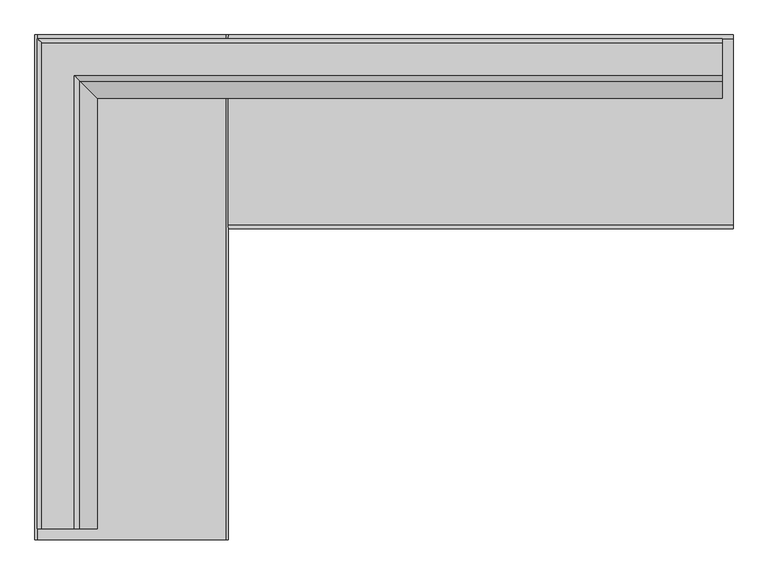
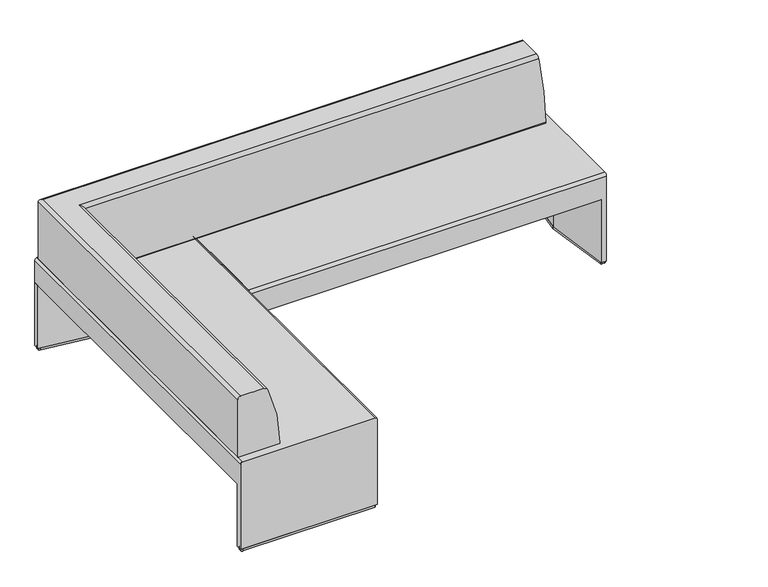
"""IFC4 building model written with IfcOpenShell, lengths in millimetres: furniture geometry, Coalesse_AM_Seating_Bench_Together_LeftCorner : 1.5in Back Offset - 69.75D x 96.5W."""

from ifc_helpers import new_model, si_unit, point, frame, frame_2d, origin, origin_with_axes, place, context, project, spatial, polyline, circle_curve, ellipse_curve, trimmed, segment, composite_curve, outline, extrude, source, transform, mapped, element, save
from ifc_brep_helpers import plane_surface, cylinder_surface, advanced_brep


def furniture_42e957c1(model_context):
    return source(origin(), model_context, "Body", "SolidModel", [
        extrude(outline(composite_curve([segment(polyline([(1701.7260341, 342.7173042), (1745.4494541, 668.3404046)]), True, "CONTINUOUS"), segment(trimmed(circle_curve(frame_2d((1752.4178665, 667.4047129)), 7.0309522), [point((1745.4494541, 668.3404046))], [point((1752.4121236, 674.4356628))], False, "CARTESIAN"), True, "CONTINUOUS"), segment(polyline([(1752.4121236, 674.4356628), (1764.935141, 674.4458915)]), True, "CONTINUOUS"), segment(trimmed(circle_curve(frame_2d((1764.9403277, 668.0958937)), 6.35), [point((1764.935141, 674.4458915))], [point((1771.2903256, 668.1010803))], False, "CARTESIAN"), True, "CONTINUOUS"), segment(polyline([(1771.2903256, 668.1010803), (1771.8258418, 12.4700002)]), True, "CONTINUOUS"), segment(trimmed(circle_curve(frame_2d((1765.4758439, 12.4648135)), 6.35), [point((1771.8258418, 12.4700002))], [point((1765.4810305, 6.1148157))], False, "CARTESIAN"), True, "CONTINUOUS"), segment(polyline([(1765.4810305, 6.1148157), (1753.0237657, 6.1046406)]), True, "CONTINUOUS"), segment(trimmed(circle_curve(frame_2d((1753.0185791, 12.4546385)), 6.35), [point((1753.0237657, 6.1046406))], [point((1746.7264214, 11.5995062))], False, "CARTESIAN"), True, "CONTINUOUS"), segment(polyline([(1746.7264214, 11.5995062), (1701.7260341, 342.7173042)]), True, "CONTINUOUS")], self_intersect=False)), origin_with_axes(), (0.0, 0.0, 1.0), 12.7976677),
        extrude(outline(composite_curve([segment(polyline([(-342.242834, 610.6565573), (-667.8301127, 654.6459299)]), True, "CONTINUOUS"), segment(trimmed(circle_curve(frame_2d((-666.8887296, 661.6135757)), 7.0309522), [point((-667.8301127, 654.6459299))], [point((-673.9196818, 661.6135757))], False, "CARTESIAN"), True, "CONTINUOUS"), segment(polyline([(-673.9196818, 661.6135757), (-673.9196818, 674.1365973)]), True, "CONTINUOUS"), segment(trimmed(circle_curve(frame_2d((-667.5696818, 674.1365973)), 6.35), [point((-673.9196818, 674.1365973))], [point((-667.5696818, 680.4865973))], False, "CARTESIAN"), True, "CONTINUOUS"), segment(polyline([(-667.5696818, 680.4865973), (-11.938383, 680.4865973)]), True, "CONTINUOUS"), segment(trimmed(circle_curve(frame_2d((-11.938383, 674.1365973)), 6.35), [point((-11.938383, 680.4865973))], [point((-5.588383, 674.1365973))], False, "CARTESIAN"), True, "CONTINUOUS"), segment(polyline([(-5.588383, 674.1365973), (-5.588383, 661.6793283)]), True, "CONTINUOUS"), segment(trimmed(circle_curve(frame_2d((-11.938383, 661.6793283)), 6.35), [point((-5.588383, 661.6793283))], [point((-11.0883904, 655.3864742))], False, "CARTESIAN"), True, "CONTINUOUS"), segment(polyline([(-11.0883904, 655.3864742), (-342.242834, 610.6565573)]), True, "CONTINUOUS")], self_intersect=False)), origin_with_axes(), (0.0, 0.0, 1.0), 12.7976677),
        extrude(outline(composite_curve([segment(polyline([(-342.242834, -1020.6704812), (-11.0883904, -1065.4003981)]), True, "CONTINUOUS"), segment(trimmed(circle_curve(frame_2d((-11.938383, -1071.6932522)), 6.35), [point((-11.0883904, -1065.4003981))], [point((-5.588383, -1071.6932522))], False, "CARTESIAN"), True, "CONTINUOUS"), segment(polyline([(-5.588383, -1071.6932522), (-5.588383, -1084.1505212)]), True, "CONTINUOUS"), segment(trimmed(circle_curve(frame_2d((-11.938383, -1084.1505212)), 6.35), [point((-5.588383, -1084.1505212))], [point((-11.938383, -1090.5005212))], False, "CARTESIAN"), True, "CONTINUOUS"), segment(polyline([(-11.938383, -1090.5005212), (-667.5696818, -1090.5005212)]), True, "CONTINUOUS"), segment(trimmed(circle_curve(frame_2d((-667.5696818, -1084.1505212)), 6.35), [point((-667.5696818, -1090.5005212))], [point((-673.9196818, -1084.1505212))], False, "CARTESIAN"), True, "CONTINUOUS"), segment(polyline([(-673.9196818, -1084.1505212), (-673.9196818, -1071.6274996)]), True, "CONTINUOUS"), segment(trimmed(circle_curve(frame_2d((-666.8887296, -1071.6274996)), 7.0309522), [point((-673.9196818, -1071.6274996))], [point((-667.8301127, -1064.6598538))], False, "CARTESIAN"), True, "CONTINUOUS"), segment(polyline([(-667.8301127, -1064.6598538), (-342.242834, -1020.6704812)]), True, "CONTINUOUS")], self_intersect=False)), origin_with_axes(), (0.0, 0.0, 1.0), 12.7976677),
        advanced_brep(
        [(1771.7783223, 12.7, 471.2287949), (1771.7783223, 0.0, 458.5287949), (1771.7783223, 0.0, 12.7976677), (1771.7783223, 680.4865973, 12.7976677), (1771.7783223, 680.4865973, 458.5287949), (1771.7783223, 667.7865973, 471.2287949), (0.0, 12.7, 471.2287949), (0.0, 667.7865973, 471.2287949), (0.0, 680.4865973, 458.5287949), (0.0, 680.4865973, 343.3718099), (0.0, 0.0, 343.3718099), (0.0, 0.0, 458.5287949), (1745.6026241, 0.0, 343.3718099), (1745.6015424, 0.0, 12.7976677), (1745.9085944, 680.4865973, 343.3718099), (1701.2700419, 337.8527218, 343.3718099), (1745.9096556, 680.4865973, 12.7976677), (1701.2700419, 337.8527218, 12.7976677)],
        [
            (0, 1, circle_curve(frame((1771.7783223, 12.7, 458.5287949), z_axis=(1.0, 0.0, 0.0), x_axis=(0.0, -1.0, 0.0)), 12.7)),
            (1, 2),
            (2, 3),
            (3, 4),
            (4, 5, circle_curve(frame((1771.7783223, 667.7865973, 458.5287949), z_axis=(1.0, 0.0, 0.0), x_axis=(0.0, -1.0, 0.0)), 12.7)),
            (5, 0),
            (6, 7),
            (7, 8, circle_curve(frame((0.0, 667.7865973, 458.5287949), z_axis=(-1.0, 0.0, 0.0), x_axis=(0.0, -1.0, 0.0)), 12.7)),
            (8, 9),
            (9, 10),
            (10, 11),
            (11, 6, circle_curve(frame((0.0, 12.7, 458.5287949), z_axis=(-1.0, 0.0, 0.0), x_axis=(0.0, -1.0, 0.0)), 12.7)),
            (0, 6),
            (11, 1),
            (10, 12),
            (12, 13),
            (13, 2),
            (9, 14),
            (14, 15),
            (15, 12),
            (3, 16),
            (16, 14),
            (8, 4),
            (7, 5),
            (17, 16),
            (13, 17),
            (15, 17),
        ],
        [
            plane_surface(frame((1771.7783223, 0.0, 458.5287949), z_axis=(1.0, 0.0, 0.0), x_axis=(0.0, 0.0, -1.0))),
            plane_surface(frame((0.0, 0.0, 458.5287949), z_axis=(-1.0, 0.0, 0.0), x_axis=(0.0, 0.0, 1.0))),
            cylinder_surface(frame((0.0, 12.7, 458.5287949), z_axis=(1.0, 0.0, 0.0), x_axis=(0.0, -1.0, 0.0)), 12.7),
            plane_surface(frame((1771.7783223, 0.0, 458.5287949), z_axis=(0.0, -1.0, 0.0), x_axis=(-1.0, 0.0, 0.0))),
            plane_surface(frame((1771.7783223, 0.0, 343.3718099), z_axis=(0.0, 0.0, -1.0), x_axis=(-1.0, 0.0, 0.0))),
            plane_surface(frame((1771.7783223, 680.4865973, 343.3718099), z_axis=(0.0, 1.0, 0.0), x_axis=(-1.0, 0.0, 0.0))),
            cylinder_surface(frame((0.0, 667.7865973, 458.5287949), z_axis=(1.0, 0.0, 0.0), x_axis=(0.0, -1.0, 0.0)), 12.7),
            plane_surface(frame((1771.7783223, 667.7865973, 471.2287949), z_axis=(0.0, 0.0, 1.0), x_axis=(-1.0, 0.0, 0.0))),
            plane_surface(frame((1701.2700419, 337.8527218, 12.7976677), z_axis=(0.0, 0.0, -1.0), x_axis=(-0.13010336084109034, 0.9915004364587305, 0.0))),
            plane_surface(frame((1701.2700419, 337.8527218, 343.3718099), z_axis=(-0.9915004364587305, -0.13010336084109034, 0.0), x_axis=(0.0, 0.0, -1.0))),
            plane_surface(frame((1745.9096556, 680.4947435, 343.3718099), z_axis=(-0.9916200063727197, 0.1291888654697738, 0.0), x_axis=(0.0, 0.0, -1.0))),
        ],
        [
            (0, [[1, 2, 3, 4, 5, 6]]),
            (1, [[7, 8, 9, 10, 11, 12]]),
            (2, [[-1, 13, -12, 14]]),
            (3, [[-2, -14, -11, 15, 16, 17]]),
            (4, [[-10, 18, 19, 20, -15]]),
            (5, [[-4, 21, 22, -18, -9, 23]]),
            (6, [[-5, -23, -8, 24]]),
            (7, [[-6, -24, -7, -13]]),
            (8, [[25, -21, -3, -17, 26]]),
            (9, [[-26, -16, -20, 27]]),
            (10, [[-25, -27, -19, -22]]),
        ],
    ),
        advanced_brep(
        [(0.0, -1091.3836068, 462.8584293), (-8.3703656, -1091.3836068, 471.2287949), (-669.1616777, -1091.3836068, 471.2287949), (-679.3216777, -1091.3836068, 461.0687949), (-679.3216777, -1091.3836068, 12.7976677), (0.0, -1091.3836068, 12.7976677), (0.0, 680.2663932, 343.3718099), (-679.3216777, 680.2663932, 343.3718099), (-679.3216777, 680.2663932, 461.0687949), (-669.1616777, 680.2663932, 471.2287949), (-8.3703656, 680.2663932, 471.2287949), (0.0, 680.2663932, 462.8584293), (0.0, -1065.3918934, 12.7976677), (0.0, -1065.3918934, 343.3718099), (-679.3216777, -1065.3918934, 343.3718099), (-679.3216777, -1065.3918934, 12.7976677), (-337.6103648, -1020.9829621, 343.3718099), (-337.6103648, -1020.9829621, 12.7976677)],
        [
            (0, 1, circle_curve(frame((-8.3703656, -1091.3836068, 462.8584293), z_axis=(0.0, -1.0, 0.0), x_axis=(1.0, 0.0, 0.0)), 8.3703656)),
            (1, 2),
            (2, 3, circle_curve(frame((-669.1616777, -1091.3836068, 461.0687949), z_axis=(0.0, -1.0, 0.0), x_axis=(1.0, 0.0, 0.0)), 10.16)),
            (3, 4),
            (4, 5),
            (5, 0),
            (6, 7),
            (7, 8),
            (8, 9, circle_curve(frame((-669.1616777, 680.2663932, 461.0687949), z_axis=(0.0, 1.0, 0.0), x_axis=(1.0, 0.0, 0.0)), 10.16)),
            (9, 10),
            (10, 11, circle_curve(frame((-8.3703656, 680.2663932, 462.8584293), z_axis=(0.0, 1.0, 0.0), x_axis=(1.0, 0.0, 0.0)), 8.3703656)),
            (11, 6),
            (5, 12),
            (12, 13),
            (13, 6),
            (11, 0),
            (10, 1),
            (9, 2),
            (8, 3),
            (7, 14),
            (14, 15),
            (15, 4),
            (13, 16),
            (16, 14),
            (17, 12),
            (15, 17),
            (16, 17),
        ],
        [
            plane_surface(frame((0.0, -1091.3836068, 432.906134), z_axis=(0.0, -1.0, 0.0), x_axis=(0.0, 0.0, 1.0))),
            plane_surface(frame((0.0, 680.2663932, 432.906134), z_axis=(0.0, 1.0, 0.0), x_axis=(0.0, 0.0, -1.0))),
            plane_surface(frame((0.0, -1091.3836068, 343.3718099), z_axis=(1.0, 0.0, 0.0), x_axis=(0.0, 1.0, 0.0))),
            cylinder_surface(frame((-8.3703656, 680.2663932, 462.8584293), z_axis=(0.0, -1.0, 0.0), x_axis=(1.0, 0.0, 0.0)), 8.3703656),
            plane_surface(frame((-8.3703656, -1091.3836068, 471.2287949), z_axis=(0.0, 0.0, 1.0), x_axis=(0.0, 1.0, 0.0))),
            cylinder_surface(frame((-669.1616777, 680.2663932, 461.0687949), z_axis=(0.0, -1.0, 0.0), x_axis=(1.0, 0.0, 0.0)), 10.16),
            plane_surface(frame((-679.3216777, -1091.3836068, 461.0687949), z_axis=(-1.0, 0.0, 0.0), x_axis=(0.0, 1.0, 0.0))),
            plane_surface(frame((-679.3216777, -1091.3836068, 343.3718099), z_axis=(0.0, 0.0, -1.0), x_axis=(0.0, 1.0, 0.0))),
            plane_surface(frame((-679.3216777, -1065.3918934, 12.7976677), z_axis=(0.0, 0.0, -1.0), x_axis=(0.9916606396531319, 0.12887659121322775, 0.0))),
            plane_surface(frame((-337.6103648, -1020.9829621, 343.3718099), z_axis=(-0.12887659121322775, 0.9916606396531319, 0.0), x_axis=(0.0, 0.0, -1.0))),
            plane_surface(frame((0.0, -1065.3918934, 343.3718099), z_axis=(0.13041558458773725, 0.9914594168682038, 0.0), x_axis=(0.0, 0.0, -1.0))),
        ],
        [
            (0, [[1, 2, 3, 4, 5, 6]]),
            (1, [[7, 8, 9, 10, 11, 12]]),
            (2, [[-6, 13, 14, 15, -12, 16]]),
            (3, [[-1, -16, -11, 17]]),
            (4, [[-2, -17, -10, 18]]),
            (5, [[-3, -18, -9, 19]]),
            (6, [[-4, -19, -8, 20, 21, 22]]),
            (7, [[-7, -15, 23, 24, -20]]),
            (8, [[25, -13, -5, -22, 26]]),
            (9, [[-26, -21, -24, 27]]),
            (10, [[-25, -27, -23, -14]]),
        ],
    ),
        extrude(outline(polyline([(-337.6103648, 610.0859526), (-679.4232219, 654.5080806), (-679.4232219, 680.4865973), (0.0, 680.4865973), (0.0, 654.4948838), (-337.6103648, 610.0859526)])), frame((0.0, 0.0, 12.7976677), z_axis=(0.0, 0.0, 1.0), x_axis=(1.0, 0.0, 0.0)), (0.0, 0.0, 1.0), 330.5741422),
        advanced_brep(
        [(-542.7579952, -1053.2836068, 789.6908243), (-654.9720681, -1053.2836068, 789.6908243), (-670.6127132, -1053.2836068, 774.0501793), (-670.6127132, -1053.2836068, 471.9907949), (-669.8507132, -1053.2836068, 471.2287949), (-467.2326916, -1053.2836068, 471.2287949), (-460.8827115, -1053.2836068, 477.5628851), (-521.8690853, -1053.2836068, 775.9296487), (-542.7579952, 539.2094278, 789.6908243), (1733.6783223, 539.2094278, 789.6908243), (1733.6783223, 651.4235007, 789.6908243), (-654.9720681, 651.4235007, 789.6908243), (-670.6127132, 667.0641458, 774.0501793), (-670.6127132, 667.0641458, 471.9907949), (-669.8507132, 666.3021458, 471.2287949), (1733.6783223, 666.3021458, 471.2287949), (1733.6783223, 463.6841242, 471.2287949), (-467.2326916, 463.6841242, 471.2287949), (-460.8827115, 457.3341441, 477.5628851), (-521.8690853, 518.3205179, 775.9296487), (1733.6783223, 518.3205179, 775.9296487), (1733.6783223, 457.3341441, 477.5628851), (1733.6783223, 667.0641458, 471.9907949), (1733.6783223, 667.0641458, 774.0501793)],
        [
            (0, 1),
            (1, 2, circle_curve(frame((-654.9720681, -1053.2836068, 774.0501793), z_axis=(0.0, -1.0, 0.0), x_axis=(-1.0, 0.0, 0.0)), 15.6406451)),
            (2, 3),
            (3, 4, circle_curve(frame((-669.8507132, -1053.2836068, 471.9907949), z_axis=(0.0, -1.0, 0.0), x_axis=(-1.0, 0.0, 0.0)), 0.762)),
            (4, 5),
            (5, 6, circle_curve(frame((-467.2326916, -1053.2836068, 477.5787949), z_axis=(0.0, -1.0, 0.0), x_axis=(-1.0, 0.0, 0.0)), 6.35)),
            (6, 7, circle_curve(frame((-1212.0260917, -1053.2836068, 479.4448666), z_axis=(0.0, -1.0, 0.0), x_axis=(-1.0, 0.0, 0.0)), 751.1457378)),
            (7, 0, circle_curve(frame((-542.7579952, -1053.2836068, 766.9559749), z_axis=(0.0, -1.0, 0.0), x_axis=(-1.0, 0.0, 0.0)), 22.7348495)),
            (0, 8),
            (8, 9),
            (9, 10),
            (10, 11),
            (11, 1),
            (11, 12, ellipse_curve(frame((-654.9720681, 651.4235007, 774.0501793), z_axis=(-0.7071067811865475, -0.7071067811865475, 0.0), x_axis=(0.7071067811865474, -0.7071067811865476, 0.0)), 22.1192124, 15.6406451)),
            (12, 2),
            (12, 13),
            (13, 3),
            (13, 14, ellipse_curve(frame((-669.8507132, 666.3021458, 471.9907949), z_axis=(-0.7071067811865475, -0.7071067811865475, 0.0), x_axis=(0.7071067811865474, -0.7071067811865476, 0.0)), 1.0776307, 0.762)),
            (14, 4),
            (14, 15),
            (15, 16),
            (16, 17),
            (17, 5),
            (17, 18, ellipse_curve(frame((-467.2326916, 463.6841242, 477.5787949), z_axis=(-0.7071067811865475, -0.7071067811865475, 0.0), x_axis=(0.7071067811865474, -0.7071067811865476, 0.0)), 8.9802561, 6.35)),
            (18, 6),
            (18, 19, ellipse_curve(frame((-1212.0260917, 1208.4775243, 479.4448666), z_axis=(-0.7071067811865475, -0.7071067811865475, 0.0), x_axis=(0.7071067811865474, -0.7071067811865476, 0.0)), 1062.2804897, 751.1457378)),
            (19, 7),
            (19, 8, ellipse_curve(frame((-542.7579952, 539.2094278, 766.9559749), z_axis=(-0.7071067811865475, -0.7071067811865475, 0.0), x_axis=(0.7071067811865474, -0.7071067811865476, 0.0)), 32.1519324, 22.7348495)),
            (9, 20, circle_curve(frame((1733.6783223, 539.2094278, 766.9559749), z_axis=(1.0, 0.0, 0.0), x_axis=(0.0, 1.0, 0.0)), 22.7348495)),
            (20, 21, circle_curve(frame((1733.6783223, 1208.4775243, 479.4448666), z_axis=(1.0, 0.0, 0.0), x_axis=(0.0, 1.0, 0.0)), 751.1457378)),
            (21, 16, circle_curve(frame((1733.6783223, 463.6841242, 477.5787949), z_axis=(1.0, 0.0, 0.0), x_axis=(0.0, 1.0, 0.0)), 6.35)),
            (15, 22, circle_curve(frame((1733.6783223, 666.3021458, 471.9907949), z_axis=(1.0, 0.0, 0.0), x_axis=(0.0, 1.0, 0.0)), 0.762)),
            (22, 23),
            (23, 10, circle_curve(frame((1733.6783223, 651.4235007, 774.0501793), z_axis=(1.0, 0.0, 0.0), x_axis=(0.0, 1.0, 0.0)), 15.6406451)),
            (23, 12),
            (22, 13),
            (21, 18),
            (20, 19),
        ],
        [
            plane_surface(frame((-460.0482755, -1053.2836068, 0.0), z_axis=(0.0, -1.0, 0.0), x_axis=(0.0, 0.0, 1.0))),
            plane_surface(frame((-542.7579952, -1053.2836068, 789.6908243), z_axis=(0.0, 0.0, 1.0), x_axis=(0.0, 1.0, 0.0))),
            cylinder_surface(frame((-654.9720681, -1053.2836068, 774.0501793), z_axis=(0.0, -1.0, 0.0), x_axis=(-1.0, 0.0, 0.0)), 15.6406451),
            plane_surface(frame((-670.6127132, -1053.2836068, 774.0501793), z_axis=(-1.0, 0.0, 0.0), x_axis=(0.0, 1.0, 0.0))),
            cylinder_surface(frame((-669.8507132, -1053.2836068, 471.9907949), z_axis=(0.0, -1.0, 0.0), x_axis=(-1.0, 0.0, 0.0)), 0.762),
            plane_surface(frame((-669.8507132, -1053.2836068, 471.2287949), z_axis=(0.0, 0.0, -1.0), x_axis=(0.0, 1.0, 0.0))),
            cylinder_surface(frame((-467.2326916, -1053.2836068, 477.5787949), z_axis=(0.0, -1.0, 0.0), x_axis=(-1.0, 0.0, 0.0)), 6.35),
            cylinder_surface(frame((-1212.0260917, -1053.2836068, 479.4448666), z_axis=(0.0, -1.0, 0.0), x_axis=(-1.0, 0.0, 0.0)), 751.1457378),
            cylinder_surface(frame((-542.7579952, -1053.2836068, 766.9559749), z_axis=(0.0, -1.0, 0.0), x_axis=(-1.0, 0.0, 0.0)), 22.7348495),
            plane_surface(frame((1733.6783223, 456.4997081, 0.0), z_axis=(1.0, 0.0, 0.0), x_axis=(0.0, 0.0, 1.0))),
            cylinder_surface(frame((-460.0482755, 651.4235007, 774.0501793), z_axis=(-1.0, 0.0, 0.0), x_axis=(0.0, 1.0, 0.0)), 15.6406451),
            plane_surface(frame((-670.6127132, 667.0641458, 774.0501793), z_axis=(0.0, 1.0, 0.0), x_axis=(1.0, 0.0, 0.0))),
            cylinder_surface(frame((-460.0482755, 666.3021458, 471.9907949), z_axis=(-1.0, 0.0, 0.0), x_axis=(0.0, 1.0, 0.0)), 0.762),
            cylinder_surface(frame((-460.0482755, 463.6841242, 477.5787949), z_axis=(-1.0, 0.0, 0.0), x_axis=(0.0, 1.0, 0.0)), 6.35),
            cylinder_surface(frame((-460.0482755, 1208.4775243, 479.4448666), z_axis=(-1.0, 0.0, 0.0), x_axis=(0.0, 1.0, 0.0)), 751.1457378),
            cylinder_surface(frame((-460.0482755, 539.2094278, 766.9559749), z_axis=(-1.0, 0.0, 0.0), x_axis=(0.0, 1.0, 0.0)), 22.7348495),
        ],
        [
            (0, [[1, 2, 3, 4, 5, 6, 7, 8]]),
            (1, [[-1, 9, 10, 11, 12, 13]]),
            (2, [[-2, -13, 14, 15]]),
            (3, [[-3, -15, 16, 17]]),
            (4, [[-4, -17, 18, 19]]),
            (5, [[-5, -19, 20, 21, 22, 23]]),
            (6, [[-6, -23, 24, 25]]),
            (7, [[-7, -25, 26, 27]]),
            (8, [[-8, -27, 28, -9]]),
            (9, [[29, 30, 31, -21, 32, 33, 34, -11]]),
            (10, [[-14, -12, -34, 35]]),
            (11, [[-16, -35, -33, 36]]),
            (12, [[-18, -36, -32, -20]]),
            (13, [[-24, -22, -31, 37]]),
            (14, [[-26, -37, -30, 38]]),
            (15, [[-28, -38, -29, -10]]),
        ],
    ),
    ])


if __name__ == "__main__":
    model = new_model("IFC4")
    model_context = context("Model", 3, world=origin())
    ifc_project = project(units=[si_unit("LENGTHUNIT", "METRE", prefix="MILLI")], contexts=[model_context])
    site = spatial("IfcSite", under=ifc_project)
    building = spatial("IfcBuilding", under=site)
    placement = place(None, origin())
    furniture_shape = furniture_42e957c1(model_context)
    element("IfcFurniture", 1, ObjectType="Coalesse_AM_Seating_Bench_Together_LeftCorner : 1.5in Back Offset - 69.75D x 96.5W", at=placement, inside=building, context=model_context, shape_type="MappedRepresentation", body=[
        mapped(furniture_shape, transform((0.0, 0.0, 0.0), x_axis=(1.0, 0.0, 0.0), y_axis=(0.0, 1.0, 0.0), z_axis=(0.0, 0.0, 1.0))),
    ])
    save(model, "model.ifc")
